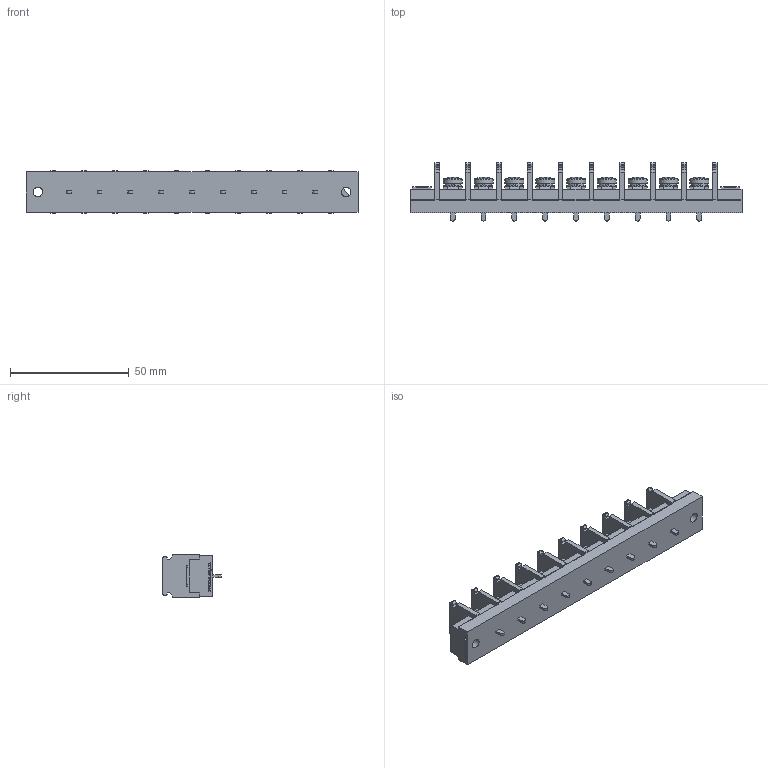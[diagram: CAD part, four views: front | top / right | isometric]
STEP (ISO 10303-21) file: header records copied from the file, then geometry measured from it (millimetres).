
FILE_DESCRIPTION(/* description */ ('Alibre Inc.'),/* implementation_level */ '2;1');
FILE_NAME(/* name */ 'export0',/* time_stamp */ '2016-08-02T19:28:14+09:00',/* author */ (''),/* organization */ (''),/* preprocessor_version */ 'ST-DEVELOPER v14',/* originating_system */ 'Alibre',/* authorisation */ '');
FILE_SCHEMA (('CONFIG_CONTROL_DESIGN'));
Length unit declared in the file: centimetre
Products named in the file (1): ID_1
Bounding box: 140 x 24.5 x 18 mm (x, y, z)
Volume: 27707.3 mm3; surface area: 14565.6 mm2
Topology: 1 solids, 42 shells, 1567 faces, 4139 edges, 2734 vertices
Faces by surface type: plane 1132, bspline 208, cylinder 164, cone 45, sphere 9, torus 9
Full cylindrical faces by diameter (mm): 4 x13, 6.5 x9, 7.7 x9, 8 x9
Entity records: 46266 total; most frequent: CARTESIAN_POINT 10347, ORIENTED_EDGE 8118, DIRECTION 5598, EDGE_CURVE 4059, VECTOR 2924, LINE 2924, VERTEX_POINT 2703, AXIS2_PLACEMENT_3D 1864
